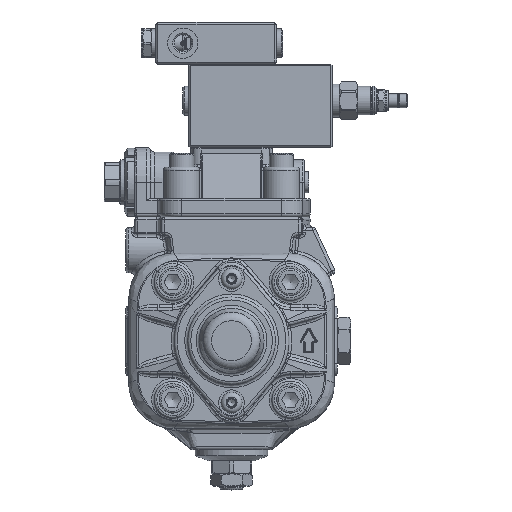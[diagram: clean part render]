
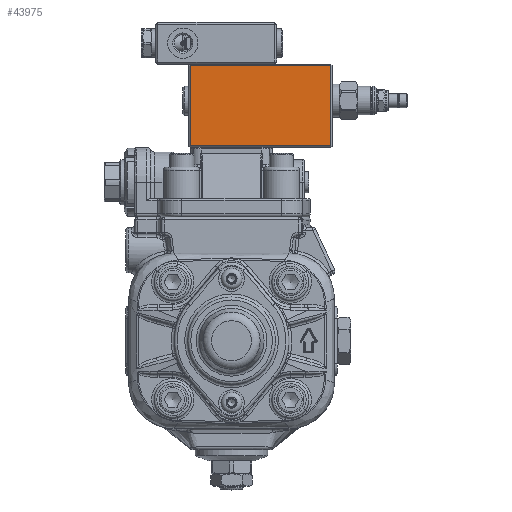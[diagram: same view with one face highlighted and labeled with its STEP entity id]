
A CAD part, top view. The second image highlights one B-rep face of the part: STEP entity #43975.
In plain terms, the highlighted planar face has unit normal (0, 0, 1).
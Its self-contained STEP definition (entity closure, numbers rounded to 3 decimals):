
#6898=FACE_OUTER_BOUND('',#9499,.T.);
#9499=EDGE_LOOP('',(#36342,#36343,#36344,#36345));
#12767=LINE('',#91282,#15107);
#12768=LINE('',#91284,#15108);
#12769=LINE('',#91286,#15109);
#12770=LINE('',#91287,#15110);
#15107=VECTOR('',#58528,10.);
#15108=VECTOR('',#58529,10.);
#15109=VECTOR('',#58530,10.);
#15110=VECTOR('',#58531,10.);
#18853=VERTEX_POINT('',#91280);
#18854=VERTEX_POINT('',#91281);
#18855=VERTEX_POINT('',#91283);
#18856=VERTEX_POINT('',#91285);
#24804=EDGE_CURVE('',#18853,#18854,#12767,.T.);
#24805=EDGE_CURVE('',#18855,#18853,#12768,.T.);
#24806=EDGE_CURVE('',#18856,#18855,#12769,.T.);
#24807=EDGE_CURVE('',#18854,#18856,#12770,.T.);
#36342=ORIENTED_EDGE('',*,*,#24804,.F.);
#36343=ORIENTED_EDGE('',*,*,#24805,.F.);
#36344=ORIENTED_EDGE('',*,*,#24806,.F.);
#36345=ORIENTED_EDGE('',*,*,#24807,.F.);
#39140=PLANE('',#48207);
#43975=ADVANCED_FACE('',(#6898),#39140,.T.);
#48207=AXIS2_PLACEMENT_3D('',#91279,#58526,#58527);
#58526=DIRECTION('center_axis',(0.,0.,
1.));
#58527=DIRECTION('ref_axis',(0.,1.,0.));
#58528=DIRECTION('',(1.,0.,0.));
#58529=DIRECTION('',(0.,1.,0.));
#58530=DIRECTION('',(-1.,0.,0.));
#58531=DIRECTION('',(0.,-1.,0.));
#91279=CARTESIAN_POINT('Origin',(-34.79,170.996,41.252));
#91280=CARTESIAN_POINT('',(-33.79,169.996,41.252));
#91281=CARTESIAN_POINT('',(59.21,169.996,41.252));
#91282=CARTESIAN_POINT('',(-11.04,169.996,41.252));
#91283=CARTESIAN_POINT('',(-33.79,116.996,41.252));
#91284=CARTESIAN_POINT('',(-33.79,170.996,41.252));
#91285=CARTESIAN_POINT('',(59.21,116.996,41.252));
#91286=CARTESIAN_POINT('',(-11.04,116.996,41.252));
#91287=CARTESIAN_POINT('',(59.21,170.996,41.252));
